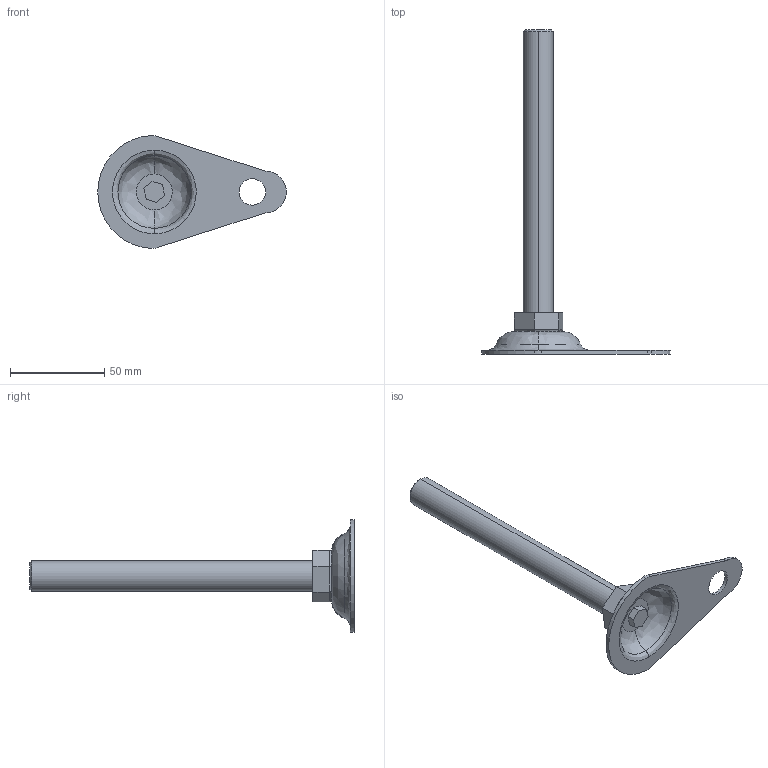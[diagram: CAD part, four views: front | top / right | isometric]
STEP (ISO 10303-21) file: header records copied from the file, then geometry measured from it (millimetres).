
FILE_DESCRIPTION (( 'STEP AP203' ), '1' );
FILE_NAME ('DY-K10016150.STEP', '2022-03-09T03:27:08', ( '' ), ( '' ), 'SwSTEP 2.0', 'SolidWorks 2017', '' );
FILE_SCHEMA (( 'CONFIG_CONTROL_DESIGN' ));
Length unit declared in the file: millimetre
Products named in the file (1): DY-K10016150
Bounding box: 99.96 x 172 x 59.88 mm (x, y, z)
Volume: 47571.2 mm3; surface area: 19429.5 mm2
Topology: 3 solids, 3 shells, 58 faces, 129 edges, 82 vertices
Faces by surface type: plane 25, cylinder 23, bspline 8, cone 2
Entity records: 2154 total; most frequent: CARTESIAN_POINT 808, DIRECTION 265, ORIENTED_EDGE 258, EDGE_CURVE 129, AXIS2_PLACEMENT_3D 99, VERTEX_POINT 82, VECTOR 67, EDGE_LOOP 67
